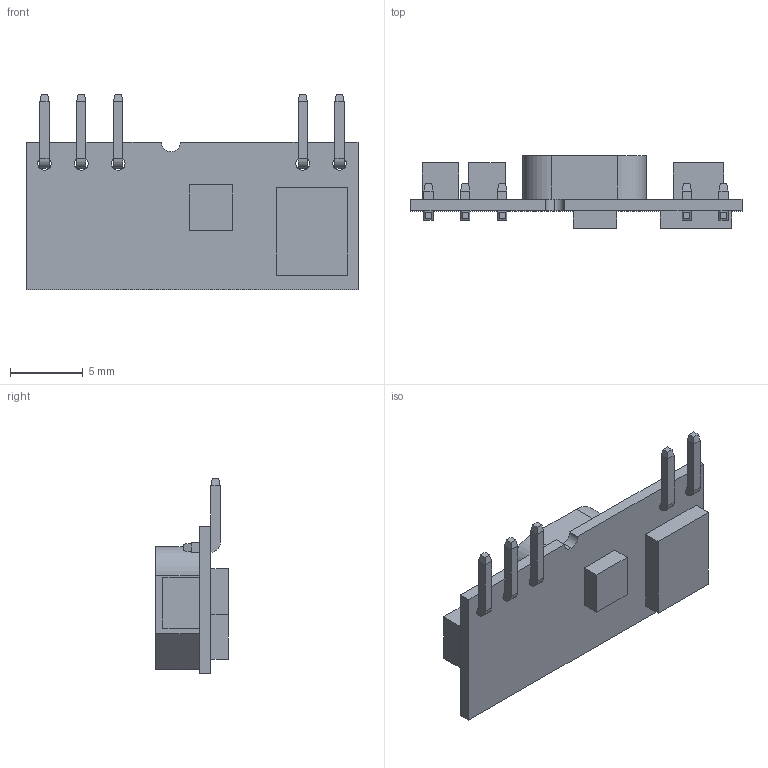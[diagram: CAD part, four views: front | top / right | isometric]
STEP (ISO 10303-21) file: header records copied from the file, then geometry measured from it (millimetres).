
FILE_DESCRIPTION (( 'STEP AP214' ), '1' );
FILE_NAME ('TOS 06-05SIL.STEP', '2018-10-30T08:21:50', ( 'user' ), ( '' ), 'SwSTEP 2.0', 'SolidWorks 2016', '' );
FILE_SCHEMA (( 'AUTOMOTIVE_DESIGN' ));
Length unit declared in the file: millimetre
Products named in the file (1): TOS 06-05SIL
Bounding box: 22.86 x 5 x 13.46 mm (x, y, z)
Volume: 508.9 mm3; surface area: 823.6 mm2
Topology: 1 solids, 1 shells, 143 faces, 360 edges, 220 vertices
Faces by surface type: plane 123, cylinder 20
Entity records: 5461 total; most frequent: CARTESIAN_POINT 724, ORIENTED_EDGE 720, DIRECTION 698, EDGE_CURVE 360, LINE 310, VECTOR 310, VERTEX_POINT 220, AXIS2_PLACEMENT_3D 194
